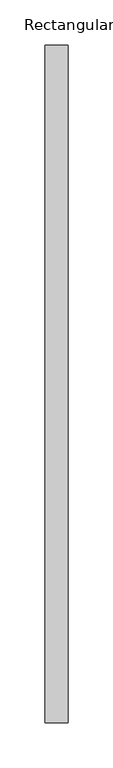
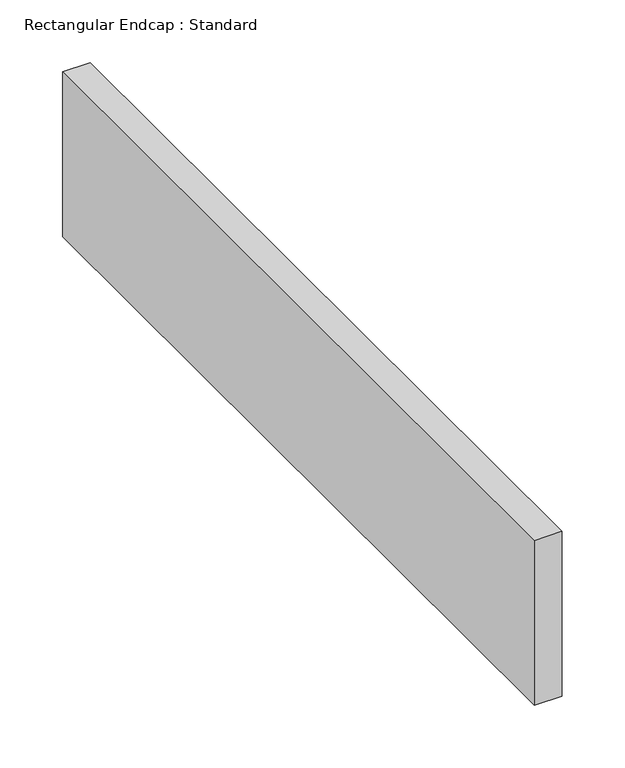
"""IFC4 building model written with IfcOpenShell, lengths in millimetres: duct fitting geometry, Rectangular Endcap : Standard."""

from ifc_helpers import new_model, si_unit, frame, origin, place, context, project, spatial, polyline, outline, extrude, source, transform, mapped, element, save


def rectangular_endcap_standard_43f25f61(model_context):
    return source(origin(), model_context, "Body", "SweptSolid", [
        extrude(outline(polyline([(0.0, -375.2875), (0.0, 375.2875), (25.4, 375.2875), (25.4, -375.2875), (0.0, -375.2875)])), frame((0.0, 0.0, -79.9207031), z_axis=(0.0, 0.0, 1.0), x_axis=(1.0, 0.0, 0.0)), (0.0, 0.0, 1.0), 159.8414063),
    ])


if __name__ == "__main__":
    model = new_model("IFC4")
    model_context = context("Model", 3, world=origin())
    ifc_project = project(units=[si_unit("LENGTHUNIT", "METRE", prefix="MILLI")], contexts=[model_context])
    site = spatial("IfcSite", under=ifc_project)
    building = spatial("IfcBuilding", under=site)
    placement = place(None, origin())
    rectangular_endcap_standard_shape = rectangular_endcap_standard_43f25f61(model_context)
    element("IfcDuctFitting", 1, ObjectType="Rectangular Endcap : Standard", at=placement, inside=building, context=model_context, shape_type="MappedRepresentation", body=[
        mapped(rectangular_endcap_standard_shape, transform((0.0, 0.0, 0.0), x_axis=(1.0, 0.0, 0.0), y_axis=(0.0, 1.0, 0.0), z_axis=(0.0, 0.0, 1.0))),
    ])
    save(model, "model.ifc")
